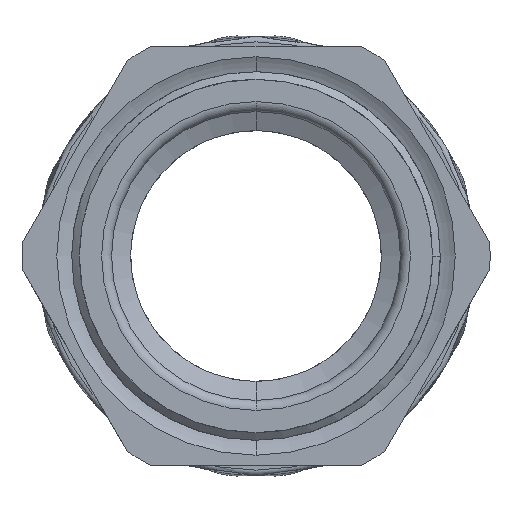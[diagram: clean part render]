
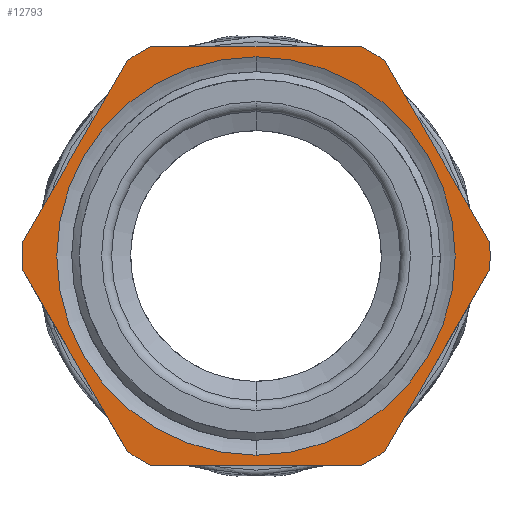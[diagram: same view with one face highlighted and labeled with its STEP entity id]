
A CAD part, front view. The second image highlights one B-rep face of the part: STEP entity #12793.
In plain terms, the highlighted planar face has unit normal (0, -1, 0).
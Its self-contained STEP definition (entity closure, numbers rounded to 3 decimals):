
#224 = ORIENTED_EDGE ( 'NONE', *, *, #21617, .T. ) ;
#605 = EDGE_CURVE ( 'NONE', #3814, #21675, #11391, .T. ) ;
#745 = ORIENTED_EDGE ( 'NONE', *, *, #9472, .T. ) ;
#751 = FACE_BOUND ( 'NONE', #4955, .T. ) ;
#1033 = DIRECTION ( 'NONE',  ( 0., -1., 0. ) ) ;
#1366 = LINE ( 'NONE', #12646, #24734 ) ;
#2156 = CARTESIAN_POINT ( 'NONE',  ( 20., 11., 21. ) ) ;
#2171 = VERTEX_POINT ( 'NONE', #20978 ) ;
#2399 = CARTESIAN_POINT ( 'NONE',  ( -23.46, 11., -1.366 ) ) ;
#2812 = DIRECTION ( 'NONE',  ( 0., 0., -1. ) ) ;
#3186 = DIRECTION ( 'NONE',  ( -0.5, 0., -0.866 ) ) ;
#3325 = CARTESIAN_POINT ( 'NONE',  ( -12.913, 11., 19.634 ) ) ;
#3519 = ORIENTED_EDGE ( 'NONE', *, *, #8107, .T. ) ;
#3573 = CARTESIAN_POINT ( 'NONE',  ( 0., 11., 0. ) ) ;
#3618 = AXIS2_PLACEMENT_3D ( 'NONE', #11813, #9168, #14034 ) ;
#3814 = VERTEX_POINT ( 'NONE', #19654 ) ;
#3928 = AXIS2_PLACEMENT_3D ( 'NONE', #15456, #13021, #19859 ) ;
#3978 = CARTESIAN_POINT ( 'NONE',  ( 23.46, 11., -1.366 ) ) ;
#4259 = CARTESIAN_POINT ( 'NONE',  ( 23.46, 11., 1.366 ) ) ;
#4402 = DIRECTION ( 'NONE',  ( 0., 0., -1. ) ) ;
#4473 = CARTESIAN_POINT ( 'NONE',  ( -13.187, 11., -19.16 ) ) ;
#4596 = LINE ( 'NONE', #2156, #7215 ) ;
#4841 = CARTESIAN_POINT ( 'NONE',  ( 12.913, 11., -19.634 ) ) ;
#4955 = EDGE_LOOP ( 'NONE', ( #16938, #21973 ) ) ;
#4979 = DIRECTION ( 'NONE',  ( 0., -1., 0. ) ) ;
#5151 = ORIENTED_EDGE ( 'NONE', *, *, #7365, .T. ) ;
#5577 = VERTEX_POINT ( 'NONE', #4259 ) ;
#5819 = AXIS2_PLACEMENT_3D ( 'NONE', #5959, #27537, #27730 ) ;
#5876 = DIRECTION ( 'NONE',  ( 0., 0., -1. ) ) ;
#5959 = CARTESIAN_POINT ( 'NONE',  ( 20., 11., 0. ) ) ;
#6271 = ORIENTED_EDGE ( 'NONE', *, *, #15819, .T. ) ;
#7215 = VECTOR ( 'NONE', #19014, 1000. ) ;
#7365 = EDGE_CURVE ( 'NONE', #5577, #3814, #20242, .T. ) ;
#7541 = DIRECTION ( 'NONE',  ( 0., -1., 0. ) ) ;
#8107 = EDGE_CURVE ( 'NONE', #30162, #5577, #27681, .T. ) ;
#8667 = AXIS2_PLACEMENT_3D ( 'NONE', #3573, #1033, #5876 ) ;
#8968 = VERTEX_POINT ( 'NONE', #30345 ) ;
#9168 = DIRECTION ( 'NONE',  ( 0., -1., 0. ) ) ;
#9472 = EDGE_CURVE ( 'NONE', #25382, #26215, #10687, .T. ) ;
#9810 = FACE_OUTER_BOUND ( 'NONE', #16564, .T. ) ;
#9973 = CARTESIAN_POINT ( 'NONE',  ( 0., 11., 0. ) ) ;
#10081 = DIRECTION ( 'NONE',  ( 0., 0., -1. ) ) ;
#10330 = CARTESIAN_POINT ( 'NONE',  ( 0., 11., -20. ) ) ;
#10558 = EDGE_CURVE ( 'NONE', #21675, #15437, #4596, .T. ) ;
#10687 = LINE ( 'NONE', #17618, #21609 ) ;
#11391 = CIRCLE ( 'NONE', #17231, 23.5 ) ;
#11813 = CARTESIAN_POINT ( 'NONE',  ( 0., 11., 0. ) ) ;
#12024 = EDGE_CURVE ( 'NONE', #26925, #8968, #25293, .T. ) ;
#12195 = VERTEX_POINT ( 'NONE', #4841 ) ;
#12220 = ORIENTED_EDGE ( 'NONE', *, *, #16731, .T. ) ;
#12646 = CARTESIAN_POINT ( 'NONE',  ( 23.187, 11., -1.84 ) ) ;
#12793 = ADVANCED_FACE ( 'NONE', ( #751, #9810 ), #20613, .T. ) ;
#12799 = AXIS2_PLACEMENT_3D ( 'NONE', #21615, #21402, #14054 ) ;
#12942 = CIRCLE ( 'NONE', #8667, 23.5 ) ;
#13021 = DIRECTION ( 'NONE',  ( 0., -1., 0. ) ) ;
#13343 = VECTOR ( 'NONE', #18691, 1000. ) ;
#13352 = ORIENTED_EDGE ( 'NONE', *, *, #24766, .T. ) ;
#14034 = DIRECTION ( 'NONE',  ( 0., 0., -1. ) ) ;
#14054 = DIRECTION ( 'NONE',  ( 0., 0., -1. ) ) ;
#14225 = DIRECTION ( 'NONE',  ( -0.5, 0., 0.866 ) ) ;
#14638 = VERTEX_POINT ( 'NONE', #10330 ) ;
#14729 = CARTESIAN_POINT ( 'NONE',  ( -10.548, 11., 21. ) ) ;
#15078 = DIRECTION ( 'NONE',  ( 0.5, 0., 0.866 ) ) ;
#15173 = VERTEX_POINT ( 'NONE', #31068 ) ;
#15266 = CARTESIAN_POINT ( 'NONE',  ( -23.46, 11., 1.366 ) ) ;
#15437 = VERTEX_POINT ( 'NONE', #14729 ) ;
#15456 = CARTESIAN_POINT ( 'NONE',  ( 0., 11., 0. ) ) ;
#15819 = EDGE_CURVE ( 'NONE', #8968, #2171, #29147, .T. ) ;
#16044 = CIRCLE ( 'NONE', #24824, 20. ) ;
#16550 = CARTESIAN_POINT ( 'NONE',  ( 23.187, 11., 1.84 ) ) ;
#16564 = EDGE_LOOP ( 'NONE', ( #30332, #224, #3519, #5151, #24635, #27950, #12220, #745, #13352, #22094, #29511, #6271 ) ) ;
#16731 = EDGE_CURVE ( 'NONE', #15437, #25382, #12942, .T. ) ;
#16938 = ORIENTED_EDGE ( 'NONE', *, *, #25709, .F. ) ;
#17231 = AXIS2_PLACEMENT_3D ( 'NONE', #9973, #7541, #2812 ) ;
#17618 = CARTESIAN_POINT ( 'NONE',  ( -13.187, 11., 19.16 ) ) ;
#17928 = CIRCLE ( 'NONE', #12799, 20. ) ;
#18691 = DIRECTION ( 'NONE',  ( 1., 0., 0. ) ) ;
#18799 = AXIS2_PLACEMENT_3D ( 'NONE', #26750, #4979, #26643 ) ;
#19014 = DIRECTION ( 'NONE',  ( -1., 0., 0. ) ) ;
#19304 = VERTEX_POINT ( 'NONE', #2399 ) ;
#19442 = AXIS2_PLACEMENT_3D ( 'NONE', #26181, #31017, #4402 ) ;
#19605 = CARTESIAN_POINT ( 'NONE',  ( 10.548, 11., 21. ) ) ;
#19654 = CARTESIAN_POINT ( 'NONE',  ( 12.913, 11., 19.634 ) ) ;
#19769 = CARTESIAN_POINT ( 'NONE',  ( 0., 11., 0. ) ) ;
#19859 = DIRECTION ( 'NONE',  ( 0., 0., -1. ) ) ;
#20242 = LINE ( 'NONE', #16550, #24712 ) ;
#20613 = PLANE ( 'NONE',  #5819 ) ;
#20978 = CARTESIAN_POINT ( 'NONE',  ( 10.548, 11., -21. ) ) ;
#21402 = DIRECTION ( 'NONE',  ( 0., -1., 0. ) ) ;
#21609 = VECTOR ( 'NONE', #3186, 1000. ) ;
#21615 = CARTESIAN_POINT ( 'NONE',  ( 0., 11., 0. ) ) ;
#21617 = EDGE_CURVE ( 'NONE', #12195, #30162, #1366, .T. ) ;
#21675 = VERTEX_POINT ( 'NONE', #19605 ) ;
#21973 = ORIENTED_EDGE ( 'NONE', *, *, #22265, .F. ) ;
#22094 = ORIENTED_EDGE ( 'NONE', *, *, #23654, .T. ) ;
#22265 = EDGE_CURVE ( 'NONE', #15173, #14638, #16044, .T. ) ;
#22297 = DIRECTION ( 'NONE',  ( 0., -1., 0. ) ) ;
#22442 = LINE ( 'NONE', #4473, #27297 ) ;
#22792 = EDGE_CURVE ( 'NONE', #2171, #12195, #23609, .T. ) ;
#23609 = CIRCLE ( 'NONE', #18799, 23.5 ) ;
#23654 = EDGE_CURVE ( 'NONE', #19304, #26925, #22442, .T. ) ;
#24062 = DIRECTION ( 'NONE',  ( 0.5, 0., -0.866 ) ) ;
#24368 = CIRCLE ( 'NONE', #19442, 23.5 ) ;
#24524 = CARTESIAN_POINT ( 'NONE',  ( -12.913, 11., -19.634 ) ) ;
#24635 = ORIENTED_EDGE ( 'NONE', *, *, #605, .T. ) ;
#24712 = VECTOR ( 'NONE', #14225, 1000. ) ;
#24734 = VECTOR ( 'NONE', #15078, 1000. ) ;
#24766 = EDGE_CURVE ( 'NONE', #26215, #19304, #24368, .T. ) ;
#24824 = AXIS2_PLACEMENT_3D ( 'NONE', #19769, #22297, #10081 ) ;
#25293 = CIRCLE ( 'NONE', #3618, 23.5 ) ;
#25382 = VERTEX_POINT ( 'NONE', #3325 ) ;
#25709 = EDGE_CURVE ( 'NONE', #14638, #15173, #17928, .T. ) ;
#26181 = CARTESIAN_POINT ( 'NONE',  ( 0., 11., 0. ) ) ;
#26215 = VERTEX_POINT ( 'NONE', #15266 ) ;
#26643 = DIRECTION ( 'NONE',  ( 0., 0., -1. ) ) ;
#26750 = CARTESIAN_POINT ( 'NONE',  ( 0., 11., 0. ) ) ;
#26925 = VERTEX_POINT ( 'NONE', #24524 ) ;
#27297 = VECTOR ( 'NONE', #24062, 1000. ) ;
#27537 = DIRECTION ( 'NONE',  ( 0., -1., 0. ) ) ;
#27681 = CIRCLE ( 'NONE', #3928, 23.5 ) ;
#27730 = DIRECTION ( 'NONE',  ( 0., 0., -1. ) ) ;
#27950 = ORIENTED_EDGE ( 'NONE', *, *, #10558, .T. ) ;
#28234 = CARTESIAN_POINT ( 'NONE',  ( 20., 11., -21. ) ) ;
#29147 = LINE ( 'NONE', #28234, #13343 ) ;
#29511 = ORIENTED_EDGE ( 'NONE', *, *, #12024, .T. ) ;
#30162 = VERTEX_POINT ( 'NONE', #3978 ) ;
#30332 = ORIENTED_EDGE ( 'NONE', *, *, #22792, .T. ) ;
#30345 = CARTESIAN_POINT ( 'NONE',  ( -10.548, 11., -21. ) ) ;
#31017 = DIRECTION ( 'NONE',  ( 0., -1., 0. ) ) ;
#31068 = CARTESIAN_POINT ( 'NONE',  ( 0., 11., 20. ) ) ;
